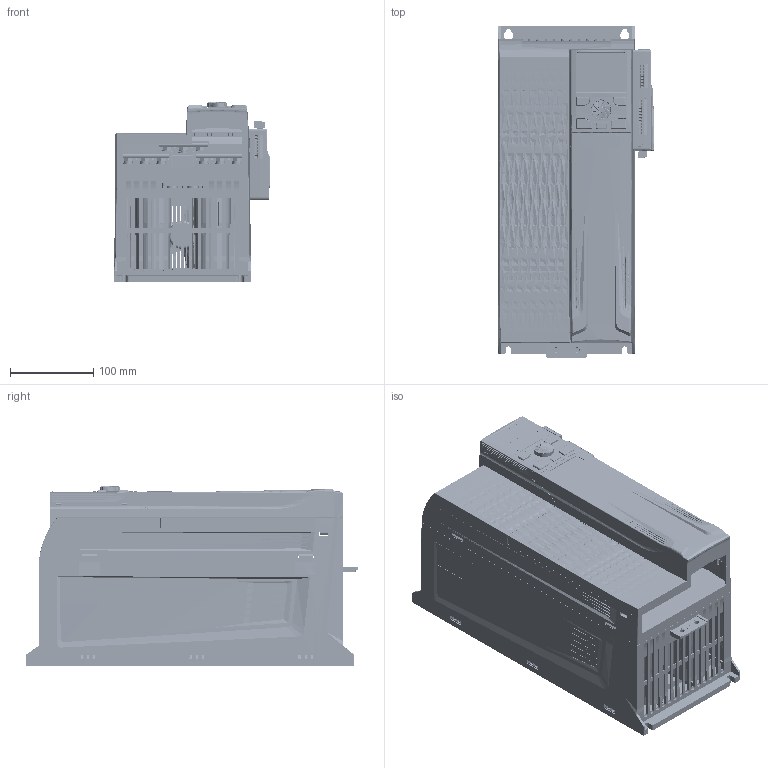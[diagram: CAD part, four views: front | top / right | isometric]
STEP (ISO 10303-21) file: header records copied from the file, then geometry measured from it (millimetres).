
FILE_DESCRIPTION(/* description */ (''),/* implementation_level */ '2;1');
FILE_NAME(/* name */ 'CA700-4T18A-3D.stp',/* time_stamp */ '2025-03-27T09:28:03+08:00',/* author */ (''),/* organization */ (''),/* preprocessor_version */ 'ST-DEVELOPER v16',/* originating_system */ 'SIEMENS PLM Software NX 10.0',/* authorisation */ '');
FILE_SCHEMA (('AP203_CONFIGURATION_CONTROLLED_3D_DESIGN_OF_MECHANICAL_PARTS_AND_ASSEMBLIES_MIM_LF { 1 0 10303 403 2 1 2}'));
Products named in the file (1): it0DFC7D6Frdd2
Bounding box: 187.63 x 399.94 x 216.39 mm (x, y, z)
Volume: 2994714.5 mm3; surface area: 2511326 mm2
Topology: 139 solids, 196 shells, 25637 faces, 69570 edges, 45673 vertices
Faces by surface type: plane 17659, cylinder 3920, bspline 1635, extrusion 1104, cone 925, torus 322, sphere 70, revolution 2
Full cylindrical faces by diameter (mm): 0.5 x57, 1.2 x6, 1.5 x3, 2.5 x5, 3.3 x8, 3.5 x10, 4 x4, 4.2 x21, 4.5 x2, 5 x4, 6.35 x1, 6.5 x4, 8.72 x2, 10.08 x1, 11 x2, 11.2 x1, 13.746 x1, 22.8 x1, 32.1 x4, 44.5 x2
Entity records: 925994 total; most frequent: CARTESIAN_POINT 278256, ORIENTED_EDGE 138278, DIRECTION 118192, EDGE_CURVE 69258, VECTOR 50948, LINE 49844, VERTEX_POINT 45580, AXIS2_PLACEMENT_3D 33621
